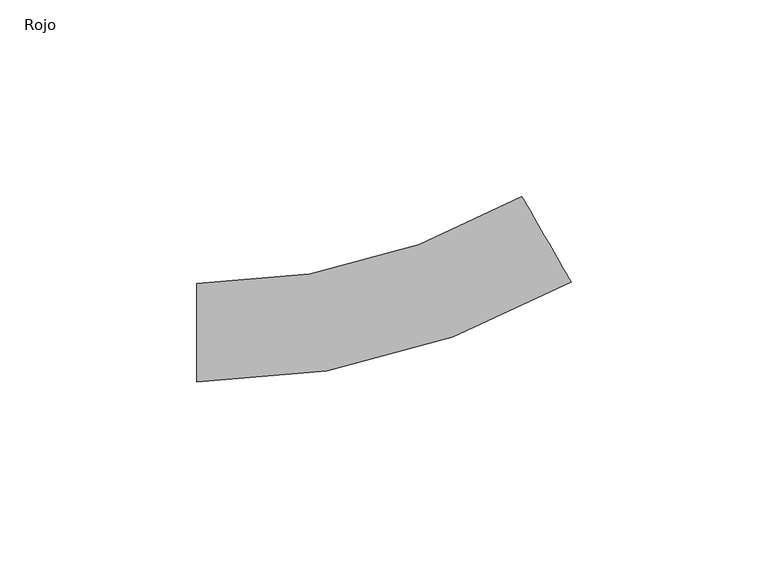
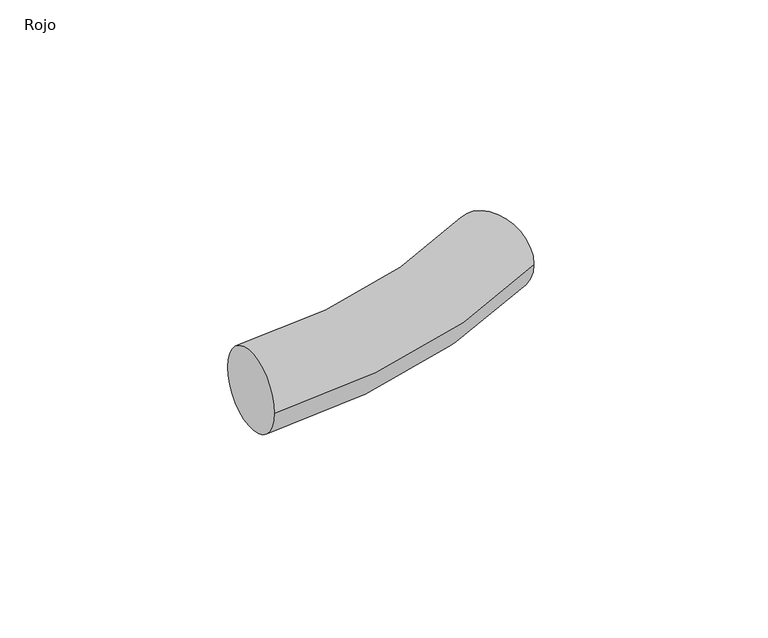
"""IFC4 building model written with IfcOpenShell, lengths in millimetres: pipe fitting geometry, AmancoWavin_UnionesdeTubería_TigrisFlexTuberíaFlexible : Rojo."""

from ifc_helpers import new_model, si_unit, point, frame, origin, place, context, project, spatial, circle_curve, ellipse_curve, trimmed, source, transform, mapped, element, save
from ifc_brep_helpers import plane_surface, revolved_surface, advanced_brep


def rojo_f0028795(model_context):
    return source(origin(), model_context, "Body", "AdvancedBrep", [
        advanced_brep(
        [(-47.5877766, -12.5, 0.0), (-47.5877766, 12.5, 0.0), (47.4622234, 12.9685707, 0.0), (34.9622234, 34.6192058, 0.0)],
        [
            (0, 1, circle_curve(frame((-47.5877766, 0.0, 0.0), z_axis=(-1.0, 0.0, 0.0), x_axis=(0.0, 1.0, 0.0)), 12.5)),
            (1, 0, circle_curve(frame((-47.5877766, 0.0, 0.0), z_axis=(-1.0, 0.0, 0.0), x_axis=(0.0, 1.0, 0.0)), 12.5)),
            (2, 3, circle_curve(frame((41.2122234, 23.7938883, 0.0), z_axis=(0.8660254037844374, 0.5000000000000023, 0.0), x_axis=(-0.5000000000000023, 0.8660254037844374, 0.0)), 12.5)),
            (3, 2, circle_curve(frame((41.2122234, 23.7938883, 0.0), z_axis=(0.8660254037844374, 0.5000000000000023, 0.0), x_axis=(-0.5000000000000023, 0.8660254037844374, 0.0)), 12.5)),
            (3, 1, circle_curve(frame((-47.5877766, 177.6, 0.0), z_axis=(0.0, 0.0, -1.0), x_axis=(0.0, -1.0, 0.0)), 165.1)),
            (0, 2, circle_curve(frame((-47.5877766, 177.6, 0.0), z_axis=(0.0, 0.0, 1.0), x_axis=(0.0, -1.0, 0.0)), 190.1)),
        ],
        [
            plane_surface(frame((-47.5877766, 0.0, 0.0), z_axis=(-1.0, 0.0, 0.0), x_axis=(0.0, 0.0, 1.0))),
            plane_surface(frame((41.2122234, 23.7938883, 0.0), z_axis=(0.8660254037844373, 0.5000000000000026, 0.0), x_axis=(0.0, 0.0, 1.0))),
            revolved_surface(trimmed(ellipse_curve(frame((-47.5877766, 0.0, 0.0), z_axis=(-1.0, 0.0, 0.0), x_axis=(0.0, 1.0, 0.0)), 12.5, 12.5), [point((-47.5877766, -12.5, 0.0))], [point((-47.5877766, 12.5, 0.0))], True, "CARTESIAN"), (-47.5877766, 177.6, 0.0), (0.0, 0.0, 1.0)),
            revolved_surface(trimmed(ellipse_curve(frame((-47.5877766, 0.0, 0.0), z_axis=(-1.0, 0.0, 0.0), x_axis=(0.0, 1.0, 0.0)), 12.5, 12.5), [point((-47.5877766, 12.5, 0.0))], [point((-47.5877766, -12.5, 0.0))], True, "CARTESIAN"), (-47.5877766, 177.6, 0.0), (0.0, 0.0, 1.0)),
        ],
        [
            (0, [[1, 2]]),
            (1, [[3, 4]]),
            (2, [[5, -1, 6, -4]]),
            (3, [[-6, -2, -5, -3]]),
        ],
    ),
    ])


if __name__ == "__main__":
    model = new_model("IFC4")
    model_context = context("Model", 3, world=origin())
    ifc_project = project(units=[si_unit("LENGTHUNIT", "METRE", prefix="MILLI")], contexts=[model_context])
    site = spatial("IfcSite", under=ifc_project)
    building = spatial("IfcBuilding", under=site)
    placement = place(None, origin())
    rojo_shape = rojo_f0028795(model_context)
    element("IfcPipeFitting", 1, ObjectType="AmancoWavin_UnionesdeTubería_TigrisFlexTuberíaFlexible : Rojo", at=placement, inside=building, context=model_context, shape_type="MappedRepresentation", body=[
        mapped(rojo_shape, transform((0.0, 0.0, 0.0), x_axis=(1.0, 0.0, 0.0), y_axis=(0.0, 1.0, 0.0), z_axis=(0.0, 0.0, 1.0))),
    ])
    save(model, "model.ifc")
